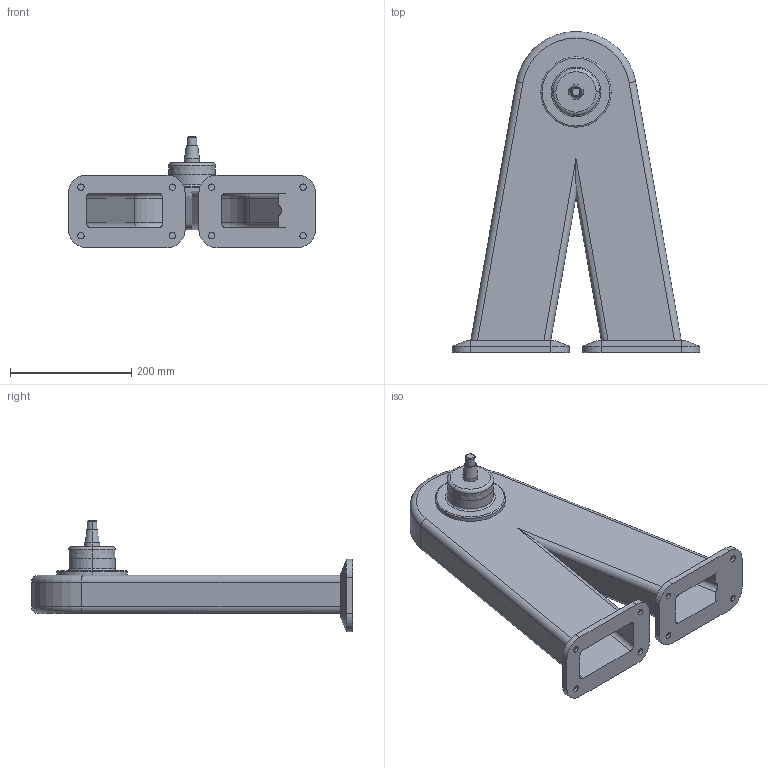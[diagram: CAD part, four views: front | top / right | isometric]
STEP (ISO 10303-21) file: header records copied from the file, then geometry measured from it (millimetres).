
FILE_DESCRIPTION (( 'STEP AP214' ), '1' );
FILE_NAME ('WP850_H430.STEP', '2014-09-08T12:55:09', ( '' ), ( '' ), 'SwSTEP 2.0', 'SolidWorks 2014', '' );
FILE_SCHEMA (( 'AUTOMOTIVE_DESIGN' ));
Length unit declared in the file: millimetre
Products named in the file (1): WP850_H430
Bounding box: 408.67 x 530 x 183.98 mm (x, y, z)
Volume: 1688069.3 mm3; surface area: 736492.1 mm2
Topology: 1 solids, 1 shells, 152 faces, 347 edges, 218 vertices
Faces by surface type: cylinder 76, plane 52, cone 14, torus 10
Entity records: 4347 total; most frequent: DIRECTION 791, CARTESIAN_POINT 778, ORIENTED_EDGE 694, EDGE_CURVE 347, AXIS2_PLACEMENT_3D 311, VERTEX_POINT 218, EDGE_LOOP 185, LINE 169
